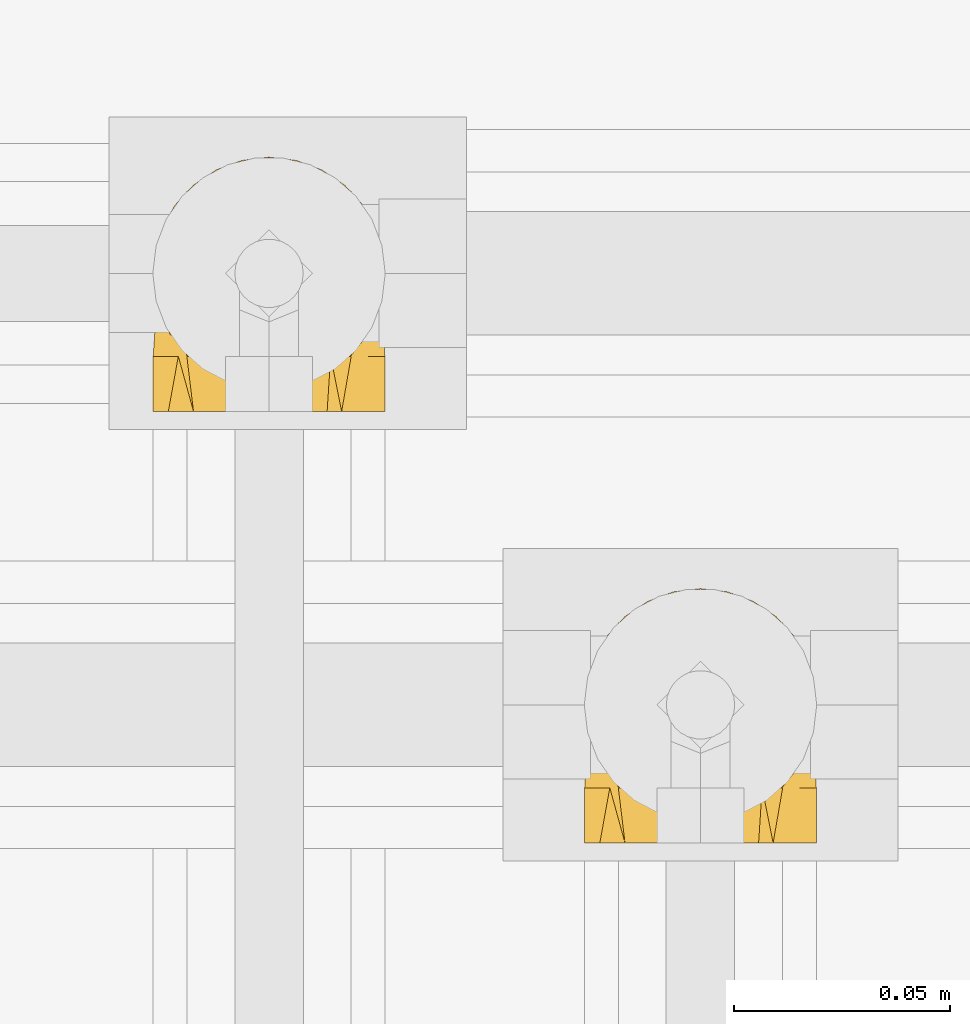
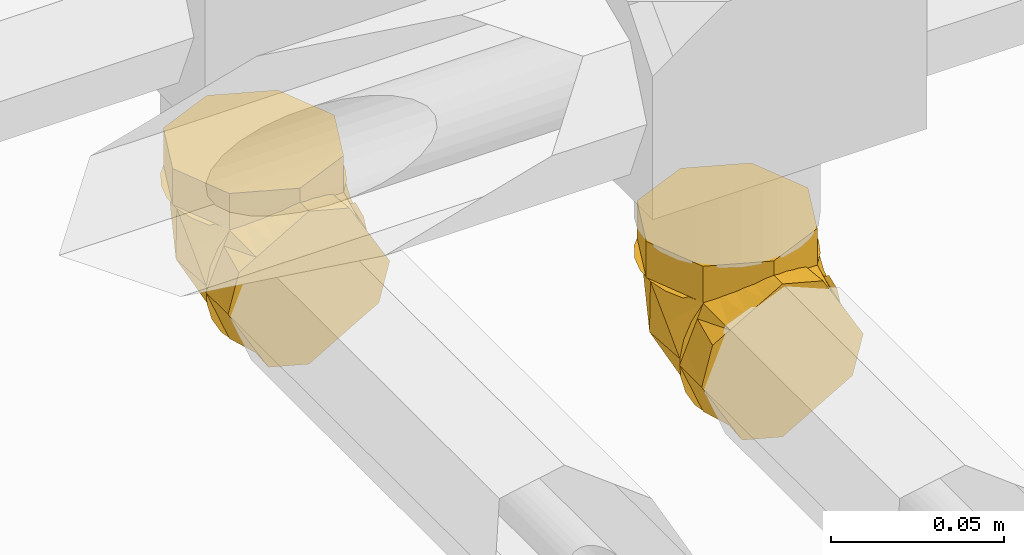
# One storey, part 349 of 652: 2 coverings.
"""IFC2X3 building model written with IfcOpenShell, lengths in millimetres."""

from ifc_helpers import new_model, entity, si_unit, converted_unit, direction, frame, origin, place, context, subcontext, project, spatial, face_set, surface_model, material, type_object, element, save


model = new_model("IFC2X3")

# Units and contexts
model_context = context("Model", 3, precision=0.01, world=frame((0.0, 0.0, 308426.39999999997)), true_north=direction((6.123233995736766e-17, 1.0)))
plan_context = context("Plan", 3, precision=0.01, world=frame((0.0, 0.0, 308426.39999999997)), true_north=direction((6.123233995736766e-17, 1.0)))
body_context = subcontext(model_context, "Body", "Model", "MODEL_VIEW")
ifc_project = project(units=[si_unit("LENGTHUNIT", "METRE", prefix="MILLI"), si_unit("AREAUNIT", "SQUARE_METRE"), si_unit("VOLUMEUNIT", "CUBIC_METRE"), converted_unit("PLANEANGLEUNIT", "DEGREE", entity("IfcPlaneAngleMeasure", 0.017453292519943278), si_unit("PLANEANGLEUNIT", "RADIAN"), dimensions=[0, 0, 0, 0, 0, 0, 0])], contexts=[model_context, plan_context])

# Site, building, storey
site_placement = place(None, origin())
site = spatial("IfcSite", under=ifc_project, at=site_placement, Name="Default", CompositionType="ELEMENT")
building_placement = place(site_placement, origin())
building = spatial("IfcBuilding", under=site, at=building_placement, CompositionType="ELEMENT")
storey_placement = place(building_placement, frame((0.0, 0.0, 1730.6999999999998)))
storey = spatial("IfcBuildingStorey", under=building, at=storey_placement, Name="EG_Produktion_FFB", CompositionType="ELEMENT", Elevation=1730.6999999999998)

# Coverings
ifc_material = material(Name="Dämmung - Armaflex-Schlauch")
covering_type = type_object("IfcCoveringType", Name="Rohrdämmung außen:Armaflex-Schlauch", PredefinedType="INSULATION")
covering_1_placement = place(storey_placement, frame((47171.46722776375, 40843.01624999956, 3671.467227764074)))
element("IfcCovering", 1, at=covering_1_placement, inside=storey, type_object=covering_type, material=ifc_material, Name="Rohrdämmung außen:Armaflex-Schlauch", ObjectType="Rohrdämmung außen:Armaflex-Schlauch", PredefinedType="INSULATION", context=body_context, shape_type="SurfaceModel", body=[
    surface_model("IfcFaceBasedSurfaceModel", [(47.409122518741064, 12.766249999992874, 47.750272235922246), (51.38658262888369, 17.724287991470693, 47.750272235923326), (54.0915642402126, 23.47627931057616, 47.750272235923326), (55.37345654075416, 29.70195853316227, 47.75027223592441), (55.16088498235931, 36.054685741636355, 47.75027223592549), (53.465685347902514, 42.1807471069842, 47.75027223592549), (50.38224474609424, 47.7390493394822, 47.75027223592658), (46.08224622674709, 52.420111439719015, 47.75027223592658), (40.8051096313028, 55.963296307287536, 47.75027223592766), (34.844660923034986, 58.17132276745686, 47.75027223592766), (28.532772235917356, 58.921249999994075, 47.75027223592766), (22.220883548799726, 58.17132276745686, 47.75027223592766), (16.26043484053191, 55.963296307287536, 47.75027223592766), (10.983298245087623, 52.420111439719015, 47.75027223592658), (6.683299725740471, 47.7390493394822, 47.75027223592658), (3.599859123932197, 42.1807471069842, 47.75027223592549), (1.904659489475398, 36.054685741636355, 47.75027223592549), (1.6920879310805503, 29.70195853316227, 47.75027223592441), (2.973980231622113, 23.47627931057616, 47.750272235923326), (5.678961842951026, 17.724287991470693, 47.750272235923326), (9.65642195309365, 12.766249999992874, 47.750272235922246), (5.678961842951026, 12.766249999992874, 42.79223424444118), (2.973980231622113, 12.766249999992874, 37.04024292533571), (1.6920879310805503, 12.766249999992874, 30.81456370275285), (1.904659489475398, 12.766249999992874, 24.46183649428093), (3.599859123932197, 12.766249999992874, 18.335775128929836), (6.683299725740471, 12.766249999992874, 12.777472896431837), (10.983298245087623, 12.766250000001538, 8.096410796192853), (16.26043484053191, 12.766250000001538, 4.5532259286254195), (22.220883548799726, 12.766250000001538, 2.3451994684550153), (28.532772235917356, 12.766250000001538, 1.5952722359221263), (34.844660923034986, 12.766250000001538, 2.3451994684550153), (40.8051096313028, 12.766250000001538, 4.553225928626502), (46.08224622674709, 12.766250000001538, 8.096410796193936), (50.38224474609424, 12.766249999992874, 12.777472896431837), (53.465685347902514, 12.766249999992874, 18.33577512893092), (55.16088498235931, 12.766249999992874, 24.46183649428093), (55.37345654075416, 12.766249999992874, 30.81456370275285), (54.0915642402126, 12.766249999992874, 37.04024292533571), (51.38658262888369, 12.766249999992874, 42.79223424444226), (54.78966920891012, 21.44756835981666, 37.807698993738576), (28.53080690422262, 52.73868164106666, 24.673035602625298), (53.46416872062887, 33.56775878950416, 26.950803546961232), (50.72945192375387, 41.06032470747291, 47.75011537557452), (28.53080690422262, 31.02837890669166, 12.140079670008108), (42.78109987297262, 41.841672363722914, 17.332785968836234), (50.72945192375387, 12.76437744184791, 19.45533082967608), (14.285164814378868, 41.841672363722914, 17.332785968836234), (2.2765954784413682, 21.44756835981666, 37.807698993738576), (3.6020959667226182, 33.56775878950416, 26.950803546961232), (6.336812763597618, 12.76437744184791, 19.45533082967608), (6.336812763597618, 41.06032470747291, 47.75011537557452), (42.81853892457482, 53.00389168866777, 60.51652223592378), (38.056616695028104, 54.97634445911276, 60.5165222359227), (33.29469446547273, 56.94879722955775, 60.5165222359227), (28.532772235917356, 58.921250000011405, 60.5165222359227), (23.77085000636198, 56.948797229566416, 60.5165222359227), (19.008927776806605, 54.97634445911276, 60.5165222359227), (14.247005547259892, 53.00389168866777, 60.51652223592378), (9.485083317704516, 51.03143891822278, 60.51652223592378), (7.512630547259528, 46.26951668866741, 60.51652223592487), (5.540177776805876, 41.507594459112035, 60.51652223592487), (3.567725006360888, 36.74567222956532, 60.51652223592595), (1.5952722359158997, 31.983750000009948, 60.516522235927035), (3.567725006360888, 27.221827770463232, 60.516522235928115), (5.540177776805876, 22.459905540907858, 60.516522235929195), (7.512630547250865, 17.697983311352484, 60.516522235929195), (9.485083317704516, 12.936061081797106, 60.51652223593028), (14.247005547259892, 10.963608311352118, 60.51652223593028), (19.008927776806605, 8.99115554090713, 60.51652223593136), (23.77085000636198, 7.018702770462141, 60.51652223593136), (28.532772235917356, 5.046250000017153, 60.51652223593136), (33.29469446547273, 7.018702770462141, 60.51652223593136), (38.056616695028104, 8.99115554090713, 60.51652223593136), (42.818538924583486, 10.963608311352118, 60.51652223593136), (47.5804611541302, 12.936061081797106, 60.51652223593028), (49.552913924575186, 17.697983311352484, 60.516522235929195), (51.525366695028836, 22.459905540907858, 60.516522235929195), (53.497819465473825, 27.221827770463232, 60.516522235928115), (55.47027223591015, 31.983750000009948, 60.516522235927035), (53.497819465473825, 36.74567222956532, 60.51652223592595), (51.525366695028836, 41.507594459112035, 60.51652223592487), (49.552913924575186, 46.26951668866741, 60.51652223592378), (47.5804611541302, 51.03143891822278, 60.51652223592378), (28.532772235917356, 58.92125000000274, 47.75027223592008), (33.29469446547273, 56.948797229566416, 47.75027223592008), (38.056616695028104, 54.97634445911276, 47.750272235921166), (42.81853892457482, 53.00389168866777, 47.750272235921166), (47.5804611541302, 51.03143891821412, 47.750272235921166), (49.96980627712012, 45.26304951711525, 47.750272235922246), (52.35915140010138, 39.49466011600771, 47.750272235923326), (55.47027223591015, 31.983750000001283, 47.75027223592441), (53.497819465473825, 27.22182777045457, 47.75027223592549), (51.525366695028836, 22.459905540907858, 47.75027223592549), (49.552913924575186, 17.697983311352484, 47.75027223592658), (47.5804611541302, 12.936061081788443, 47.75027223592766), (41.81207175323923, 10.546715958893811, 47.75027223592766), (36.04368235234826, 8.157370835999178, 47.75027223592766), (28.532772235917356, 5.046250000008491, 47.75027223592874), (23.77085000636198, 7.018702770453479, 47.75027223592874), (19.008927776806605, 8.99115554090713, 47.75027223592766), (14.247005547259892, 10.963608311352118, 47.75027223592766), (9.485083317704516, 12.936061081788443, 47.75027223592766), (7.095738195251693, 18.704450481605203, 47.75027223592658), (4.706393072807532, 24.472839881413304, 47.75027223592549), (1.5952722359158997, 31.983750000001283, 47.75027223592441), (3.567725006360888, 36.74567222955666, 47.750272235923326), (5.540177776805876, 41.507594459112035, 47.750272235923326), (7.512630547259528, 46.26951668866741, 47.750272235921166), (9.485083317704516, 51.03143891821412, 47.750272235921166), (15.253472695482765, 53.420784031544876, 47.750272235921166), (21.021862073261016, 55.810129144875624, 47.75027223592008), (28.532772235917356, 0.0, 1.595272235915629), (34.36491206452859, 0.0, 4.962459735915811), (40.197051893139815, 0.0, 8.329647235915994), (46.02919172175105, 0.0, 11.696834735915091), (51.86133155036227, 0.0, 15.064022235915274), (53.66580189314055, 0.0, 21.798397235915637), (55.47027223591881, 0.0, 28.532772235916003), (52.10308473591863, 0.0, 34.36491206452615), (48.73589723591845, 0.0, 40.19705189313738), (45.368709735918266, 0.0, 46.02919172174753), (42.00152223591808, 0.0, 51.861331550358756), (35.26714723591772, 0.0, 53.66580189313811), (28.532772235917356, 0.0, 55.470272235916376), (22.700632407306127, 0.0, 52.10308473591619), (16.868492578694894, 0.0, 48.73589723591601), (11.036352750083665, 0.0, 45.36870973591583), (5.204212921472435, 0.0, 42.00152223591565), (3.3997425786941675, 0.0, 35.26714723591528), (1.5952722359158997, 0.0, 28.532772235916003), (4.962459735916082, 0.0, 22.700632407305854), (8.329647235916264, 0.0, 16.868492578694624), (11.696834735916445, 0.0, 11.036352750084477), (15.064022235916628, 0.0, 5.204212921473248), (21.79839723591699, 0.0, 3.399742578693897), (28.532772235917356, 12.766250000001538, 1.595272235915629), (23.77085000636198, 12.766250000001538, 3.567725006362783), (19.008927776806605, 12.766250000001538, 5.540177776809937), (14.247005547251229, 12.766250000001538, 7.512630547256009), (9.485083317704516, 12.766250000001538, 9.485083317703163), (7.512630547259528, 12.766250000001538, 14.247005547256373), (5.540177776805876, 12.766250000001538, 19.008927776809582), (3.567725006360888, 12.766250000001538, 23.770850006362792), (1.5952722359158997, 12.766250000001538, 28.532772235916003), (3.567725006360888, 12.766250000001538, 33.29469446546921), (5.540177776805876, 12.766250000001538, 38.05661669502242), (7.512630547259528, 12.766250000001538, 42.818538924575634), (9.485083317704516, 12.766250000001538, 47.58046115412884), (14.247005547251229, 12.766250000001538, 49.552913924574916), (19.008927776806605, 12.766250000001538, 51.525366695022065), (23.77085000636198, 12.766250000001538, 53.49781946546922), (28.532772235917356, 12.766250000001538, 55.470272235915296), (33.29469446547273, 12.766250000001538, 53.49781946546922), (38.056616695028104, 12.766250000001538, 51.525366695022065), (42.818538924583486, 12.766250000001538, 49.552913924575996), (47.5804611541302, 12.766250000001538, 47.58046115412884), (49.552913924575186, 12.766250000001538, 42.818538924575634), (51.525366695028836, 12.766250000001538, 38.05661669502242), (53.497819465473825, 12.766250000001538, 33.29469446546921), (55.47027223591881, 12.766250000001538, 28.532772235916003), (53.497819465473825, 12.766250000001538, 23.770850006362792), (51.525366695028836, 12.766250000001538, 19.008927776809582), (49.552913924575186, 12.766250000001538, 14.24700554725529), (47.5804611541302, 12.766250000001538, 9.485083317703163), (42.81853892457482, 12.766250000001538, 7.512630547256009), (38.056616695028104, 12.766250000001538, 5.540177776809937), (33.29469446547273, 12.766250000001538, 3.567725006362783)], [face_set([[[0, 1, 2, 3, 4, 5, 6, 7, 8, 9, 10, 11, 12, 13, 14, 15, 16, 17, 18, 19]], [[20, 21, 22, 23, 24, 25, 26, 27, 28, 29, 30, 31, 32, 33, 34, 35, 36, 37, 38, 39]], [[0, 40, 3]], [[10, 7, 41]], [[37, 42, 40]], [[42, 7, 43]], [[37, 40, 0]], [[3, 40, 42]], [[44, 41, 45]], [[7, 45, 41]], [[33, 30, 44]], [[44, 45, 33]], [[42, 33, 45]], [[42, 37, 46, 33]], [[7, 42, 45]], [[43, 3, 42]], [[13, 10, 41]], [[27, 47, 44]], [[44, 30, 27]], [[48, 49, 23]], [[49, 27, 50, 23]], [[17, 49, 48]], [[44, 47, 41]], [[20, 48, 23]], [[47, 49, 13]], [[17, 48, 20]], [[41, 47, 13]], [[49, 17, 51]], [[27, 49, 47]], [[51, 13, 49]]]), face_set([[[52, 53, 54, 55, 56, 57, 58, 59, 60, 61, 62, 63, 64, 65, 66, 67, 68, 69, 70, 71, 72, 73, 74, 75, 76, 77, 78, 79, 80, 81, 82, 83]], [[84, 85, 86, 87, 88, 89, 90, 91, 92, 93, 94, 95, 96, 97, 98, 99, 100, 101, 102, 103, 104, 105, 106, 107, 108, 109, 110, 111]], [[111, 110, 109, 59, 58, 57, 56, 55, 84]], [[59, 109, 108, 107, 106, 105, 63, 62, 61, 60]], [[104, 103, 102, 67, 66, 65, 64, 63, 105]], [[67, 102, 101, 100, 99, 98, 71, 70, 69, 68]], [[97, 96, 95, 75, 74, 73, 72, 71, 98]], [[75, 95, 94, 93, 92, 91, 79, 78, 77, 76]], [[90, 89, 88, 83, 82, 81, 80, 79, 91]], [[83, 88, 87, 86, 85, 84, 55, 54, 53, 52]]]), face_set([[[112, 113, 114, 115, 116, 117, 118, 119, 120, 121, 122, 123, 124, 125, 126, 127, 128, 129, 130, 131, 132, 133, 134, 135]], [[136, 137, 138, 139, 140, 141, 142, 143, 144, 145, 146, 147, 148, 149, 150, 151, 152, 153, 154, 155, 156, 157, 158, 159, 160, 161, 162, 163, 164, 165, 166, 167]], [[155, 121, 156]], [[118, 159, 119]], [[159, 158, 119]], [[123, 154, 153]], [[153, 152, 124]], [[121, 155, 122]], [[120, 158, 157]], [[118, 160, 159]], [[158, 120, 119]], [[124, 123, 153]], [[157, 156, 121]], [[155, 154, 122]], [[123, 122, 154]], [[120, 157, 121]], [[163, 115, 164]], [[112, 167, 113]], [[167, 166, 113]], [[117, 162, 161]], [[161, 160, 118]], [[115, 163, 116]], [[114, 166, 165]], [[112, 136, 167]], [[166, 114, 113]], [[118, 117, 161]], [[165, 164, 115]], [[163, 162, 116]], [[117, 116, 162]], [[114, 165, 115]], [[139, 133, 140]], [[130, 143, 131]], [[143, 142, 131]], [[135, 138, 137]], [[137, 136, 112]], [[133, 139, 134]], [[132, 142, 141]], [[130, 144, 143]], [[142, 132, 131]], [[112, 135, 137]], [[141, 140, 133]], [[139, 138, 134]], [[135, 134, 138]], [[132, 141, 133]], [[147, 127, 148]], [[124, 151, 125]], [[151, 150, 125]], [[129, 146, 145]], [[145, 144, 130]], [[127, 147, 128]], [[126, 150, 149]], [[124, 152, 151]], [[150, 126, 125]], [[130, 129, 145]], [[149, 148, 127]], [[147, 146, 128]], [[129, 128, 146]], [[126, 149, 127]]])]),
])
covering_2_placement = place(storey_placement, frame((47271.467227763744, 40743.01624999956, 3671.467227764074)))
element("IfcCovering", 2, at=covering_2_placement, inside=storey, type_object=covering_type, material=ifc_material, Name="Rohrdämmung außen:Armaflex-Schlauch", ObjectType="Rohrdämmung außen:Armaflex-Schlauch", PredefinedType="INSULATION", context=body_context, shape_type="SurfaceModel", body=[
    surface_model("IfcFaceBasedSurfaceModel", [(47.409122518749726, 12.766249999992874, 47.750272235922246), (51.38658262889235, 17.724287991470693, 47.750272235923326), (54.09156424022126, 23.47627931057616, 47.750272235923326), (55.373456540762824, 29.70195853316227, 47.75027223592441), (55.160884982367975, 36.054685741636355, 47.75027223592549), (53.465685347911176, 42.1807471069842, 47.75027223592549), (50.382244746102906, 47.7390493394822, 47.75027223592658), (46.08224622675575, 52.420111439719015, 47.75027223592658), (40.80510963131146, 55.963296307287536, 47.75027223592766), (34.84466092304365, 58.17132276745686, 47.75027223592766), (28.532772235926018, 58.921249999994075, 47.75027223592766), (22.220883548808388, 58.17132276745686, 47.75027223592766), (16.260434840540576, 55.963296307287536, 47.75027223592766), (10.983298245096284, 52.420111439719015, 47.75027223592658), (6.6832997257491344, 47.7390493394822, 47.75027223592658), (3.5998591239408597, 42.1807471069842, 47.75027223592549), (1.904659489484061, 36.054685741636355, 47.75027223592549), (1.6920879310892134, 29.70195853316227, 47.75027223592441), (2.973980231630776, 23.47627931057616, 47.750272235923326), (5.678961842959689, 17.724287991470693, 47.750272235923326), (9.656421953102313, 12.766249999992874, 47.750272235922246), (5.678961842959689, 12.766249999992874, 42.79223424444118), (2.973980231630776, 12.766249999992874, 37.04024292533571), (1.6920879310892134, 12.766249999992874, 30.81456370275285), (1.904659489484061, 12.766249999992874, 24.46183649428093), (3.5998591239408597, 12.766249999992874, 18.335775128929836), (6.6832997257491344, 12.766249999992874, 12.777472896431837), (10.983298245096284, 12.766250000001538, 8.096410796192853), (16.260434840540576, 12.766250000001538, 4.5532259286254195), (22.220883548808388, 12.766250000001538, 2.3451994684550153), (28.532772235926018, 12.766250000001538, 1.5952722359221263), (34.84466092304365, 12.766250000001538, 2.3451994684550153), (40.80510963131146, 12.766250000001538, 4.553225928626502), (46.08224622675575, 12.766250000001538, 8.096410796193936), (50.382244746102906, 12.766249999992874, 12.777472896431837), (53.465685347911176, 12.766249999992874, 18.33577512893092), (55.160884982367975, 12.766249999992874, 24.46183649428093), (55.373456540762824, 12.766249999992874, 30.81456370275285), (54.09156424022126, 12.766249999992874, 37.04024292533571), (51.38658262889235, 12.766249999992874, 42.79223424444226), (54.78821657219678, 21.44902099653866, 37.807698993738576), (28.53400514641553, 52.735483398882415, 24.673035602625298), (53.46736696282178, 33.564560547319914, 26.950803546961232), (50.72799928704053, 41.061777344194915, 47.75011537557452), (28.53400514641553, 31.029831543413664, 12.140079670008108), (42.77964723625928, 41.843125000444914, 17.332785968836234), (50.72799928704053, 12.76583007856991, 19.45533082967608), (14.28371217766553, 41.843125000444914, 17.332785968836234), (2.2751428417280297, 21.44902099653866, 37.807698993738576), (3.6006433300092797, 33.564560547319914, 26.950803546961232), (6.3400110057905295, 12.76583007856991, 19.45533082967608), (6.3400110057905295, 41.061777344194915, 47.75011537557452), (42.818538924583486, 53.00389168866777, 60.51652223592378), (38.056616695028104, 54.97634445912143, 60.5165222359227), (33.29469446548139, 56.948797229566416, 60.5165222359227), (28.532772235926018, 58.921250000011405, 60.5165222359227), (23.770850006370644, 56.948797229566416, 60.5165222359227), (19.00892777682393, 54.97634445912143, 60.5165222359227), (14.247005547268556, 53.00389168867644, 60.51652223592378), (9.48508331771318, 51.03143891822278, 60.51652223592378), (7.512630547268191, 46.26951668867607, 60.51652223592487), (5.540177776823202, 41.507594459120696, 60.51652223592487), (3.567725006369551, 36.74567222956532, 60.51652223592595), (1.5952722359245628, 31.983750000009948, 60.516522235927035), (3.567725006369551, 27.22182777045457, 60.516522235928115), (5.540177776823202, 22.459905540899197, 60.516522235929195), (7.512630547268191, 17.69798331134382, 60.516522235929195), (9.48508331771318, 12.936061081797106, 60.51652223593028), (14.247005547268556, 10.963608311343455, 60.51652223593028), (19.00892777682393, 8.991155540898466, 60.51652223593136), (23.770850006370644, 7.018702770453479, 60.51652223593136), (28.532772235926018, 5.046250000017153, 60.51652223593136), (33.29469446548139, 7.018702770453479, 60.51652223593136), (38.056616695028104, 8.991155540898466, 60.51652223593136), (42.818538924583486, 10.963608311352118, 60.51652223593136), (47.58046115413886, 12.936061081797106, 60.51652223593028), (49.55291392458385, 17.69798331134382, 60.516522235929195), (51.525366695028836, 22.459905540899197, 60.516522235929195), (53.497819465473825, 27.22182777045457, 60.516522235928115), (55.47027223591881, 31.983750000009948, 60.516522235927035), (53.497819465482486, 36.74567222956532, 60.51652223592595), (51.525366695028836, 41.507594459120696, 60.51652223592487), (49.55291392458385, 46.26951668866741, 60.51652223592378), (47.58046115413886, 51.03143891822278, 60.51652223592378), (28.532772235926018, 58.92125000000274, 47.75027223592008), (33.29469446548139, 56.948797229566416, 47.75027223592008), (38.056616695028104, 54.97634445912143, 47.750272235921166), (42.818538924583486, 53.00389168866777, 47.750272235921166), (47.58046115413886, 51.03143891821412, 47.750272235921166), (49.96980627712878, 45.26304951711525, 47.750272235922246), (52.35915140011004, 39.49466011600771, 47.750272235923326), (55.47027223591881, 31.983750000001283, 47.75027223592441), (53.497819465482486, 27.22182777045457, 47.75027223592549), (51.525366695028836, 22.459905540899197, 47.75027223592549), (49.55291392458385, 17.69798331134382, 47.75027223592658), (47.58046115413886, 12.936061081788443, 47.75027223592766), (41.81207175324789, 10.546715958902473, 47.75027223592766), (36.04368235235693, 8.157370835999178, 47.75027223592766), (28.532772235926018, 5.046250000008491, 47.75027223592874), (23.770850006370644, 7.018702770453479, 47.75027223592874), (19.00892777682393, 8.991155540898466, 47.75027223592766), (14.247005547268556, 10.963608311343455, 47.75027223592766), (9.48508331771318, 12.936061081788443, 47.75027223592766), (7.095738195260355, 18.704450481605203, 47.75027223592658), (4.706393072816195, 24.472839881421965, 47.75027223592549), (1.5952722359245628, 31.983750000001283, 47.75027223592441), (3.567725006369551, 36.74567222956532, 47.750272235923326), (5.540177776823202, 41.507594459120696, 47.750272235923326), (7.512630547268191, 46.26951668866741, 47.750272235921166), (9.48508331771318, 51.03143891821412, 47.750272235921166), (15.253472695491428, 53.420784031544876, 47.750272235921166), (21.021862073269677, 55.810129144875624, 47.75027223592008), (28.532772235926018, 0.0, 1.595272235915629), (34.36491206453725, 0.0, 4.962459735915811), (40.197051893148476, 0.0, 8.329647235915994), (46.02919172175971, 0.0, 11.696834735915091), (51.86133155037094, 0.0, 15.064022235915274), (53.66580189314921, 0.0, 21.798397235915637), (55.470272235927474, 0.0, 28.532772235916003), (52.10308473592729, 0.0, 34.36491206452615), (48.73589723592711, 0.0, 40.19705189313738), (45.36870973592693, 0.0, 46.02919172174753), (42.00152223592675, 0.0, 51.861331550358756), (35.26714723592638, 0.0, 53.66580189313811), (28.532772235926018, 0.0, 55.470272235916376), (22.70063240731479, 0.0, 52.10308473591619), (16.86849257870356, 0.0, 48.73589723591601), (11.036352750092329, 0.0, 45.36870973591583), (5.204212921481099, 0.0, 42.00152223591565), (3.399742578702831, 0.0, 35.26714723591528), (1.5952722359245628, 0.0, 28.532772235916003), (4.962459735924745, 0.0, 22.700632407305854), (8.329647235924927, 0.0, 16.868492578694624), (11.696834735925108, 0.0, 11.036352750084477), (15.064022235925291, 0.0, 5.204212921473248), (21.798397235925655, 0.0, 3.399742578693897), (28.532772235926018, 12.766250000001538, 1.595272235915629), (23.770850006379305, 12.766250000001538, 3.567725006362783), (19.00892777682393, 12.766250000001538, 5.540177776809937), (14.247005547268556, 12.766249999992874, 7.512630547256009), (9.48508331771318, 12.766250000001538, 9.485083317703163), (7.512630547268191, 12.766250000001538, 14.247005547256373), (5.540177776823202, 12.766250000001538, 19.008927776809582), (3.567725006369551, 12.766250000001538, 23.770850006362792), (1.5952722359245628, 12.766250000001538, 28.532772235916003), (3.567725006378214, 12.766250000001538, 33.29469446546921), (5.540177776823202, 12.766250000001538, 38.05661669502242), (7.512630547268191, 12.766250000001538, 42.818538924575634), (9.48508331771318, 12.766250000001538, 47.58046115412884), (14.247005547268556, 12.766250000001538, 49.552913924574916), (19.00892777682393, 12.766250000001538, 51.525366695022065), (23.770850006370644, 12.766250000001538, 53.49781946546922), (28.532772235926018, 12.766250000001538, 55.470272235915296), (33.29469446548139, 12.766250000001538, 53.49781946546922), (38.056616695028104, 12.766250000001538, 51.525366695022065), (42.81853892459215, 12.766250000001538, 49.552913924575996), (47.58046115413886, 12.766250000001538, 47.58046115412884), (49.55291392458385, 12.766250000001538, 42.818538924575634), (51.525366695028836, 12.766250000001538, 38.05661669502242), (53.497819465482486, 12.766250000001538, 33.29469446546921), (55.470272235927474, 12.766250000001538, 28.532772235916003), (53.497819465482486, 12.766250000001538, 23.770850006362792), (51.525366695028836, 12.766250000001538, 19.008927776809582), (49.55291392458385, 12.766249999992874, 14.24700554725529), (47.58046115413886, 12.766250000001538, 9.485083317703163), (42.818538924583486, 12.766250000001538, 7.512630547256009), (38.056616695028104, 12.766250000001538, 5.540177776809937), (33.29469446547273, 12.766249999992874, 3.567725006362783)], [face_set([[[0, 1, 2, 3, 4, 5, 6, 7, 8, 9, 10, 11, 12, 13, 14, 15, 16, 17, 18, 19]], [[20, 21, 22, 23, 24, 25, 26, 27, 28, 29, 30, 31, 32, 33, 34, 35, 36, 37, 38, 39]], [[0, 40, 3]], [[10, 7, 41]], [[37, 42, 40]], [[42, 7, 43]], [[37, 40, 0]], [[3, 40, 42]], [[44, 41, 45]], [[7, 45, 41]], [[33, 30, 44]], [[44, 45, 33]], [[42, 33, 45]], [[42, 37, 46, 33]], [[7, 42, 45]], [[43, 3, 42]], [[13, 10, 41]], [[27, 47, 44]], [[44, 30, 27]], [[48, 49, 23]], [[49, 27, 50]], [[17, 49, 48]], [[44, 47, 41]], [[20, 48, 23]], [[47, 49, 13]], [[17, 48, 20]], [[41, 47, 13]], [[49, 17, 51]], [[27, 49, 47]], [[50, 23, 49]], [[51, 13, 49]]]), face_set([[[52, 53, 54, 55, 56, 57, 58, 59, 60, 61, 62, 63, 64, 65, 66, 67, 68, 69, 70, 71, 72, 73, 74, 75, 76, 77, 78, 79, 80, 81, 82, 83]], [[84, 85, 86, 87, 88, 89, 90, 91, 92, 93, 94, 95, 96, 97, 98, 99, 100, 101, 102, 103, 104, 105, 106, 107, 108, 109, 110, 111]], [[111, 110, 109, 59, 58, 57, 56, 55, 84]], [[59, 109, 108, 107, 106, 105, 63, 62, 61, 60]], [[104, 103, 102, 67, 66, 65, 64, 63, 105]], [[67, 102, 101, 100, 99, 98, 71, 70, 69, 68]], [[97, 96, 95, 75, 74, 73, 72, 71, 98]], [[75, 95, 94, 93, 92, 91, 79, 78, 77, 76]], [[90, 89, 88, 83, 82, 81, 80, 79, 91]], [[83, 88, 87, 86, 85, 84, 55, 54, 53, 52]]]), face_set([[[112, 113, 114, 115, 116, 117, 118, 119, 120, 121, 122, 123, 124, 125, 126, 127, 128, 129, 130, 131, 132, 133, 134, 135]], [[136, 137, 138, 139, 140, 141, 142, 143, 144, 145, 146, 147, 148, 149, 150, 151, 152, 153, 154, 155, 156, 157, 158, 159, 160, 161, 162, 163, 164, 165, 166, 167]], [[155, 121, 156]], [[118, 159, 119]], [[159, 158, 119]], [[123, 154, 153]], [[153, 152, 124]], [[121, 155, 122]], [[120, 158, 157]], [[118, 160, 159]], [[158, 120, 119]], [[124, 123, 153]], [[157, 156, 121]], [[155, 154, 122]], [[123, 122, 154]], [[120, 157, 121]], [[163, 115, 164]], [[112, 167, 113]], [[167, 166, 113]], [[117, 162, 161]], [[161, 160, 118]], [[115, 163, 116]], [[114, 166, 165]], [[112, 136, 167]], [[166, 114, 113]], [[118, 117, 161]], [[165, 164, 115]], [[163, 162, 116]], [[117, 116, 162]], [[114, 165, 115]], [[139, 133, 140]], [[130, 143, 131]], [[143, 142, 131]], [[135, 138, 137]], [[137, 136, 112]], [[133, 139, 134]], [[132, 142, 141]], [[130, 144, 143]], [[142, 132, 131]], [[112, 135, 137]], [[141, 140, 133]], [[139, 138, 134]], [[135, 134, 138]], [[132, 141, 133]], [[147, 127, 148]], [[124, 151, 125]], [[151, 150, 125]], [[129, 146, 145]], [[145, 144, 130]], [[127, 147, 128]], [[126, 150, 149]], [[124, 152, 151]], [[150, 126, 125]], [[130, 129, 145]], [[149, 148, 127]], [[147, 146, 128]], [[129, 128, 146]], [[126, 149, 127]]])]),
])

save(model, "model.ifc")
